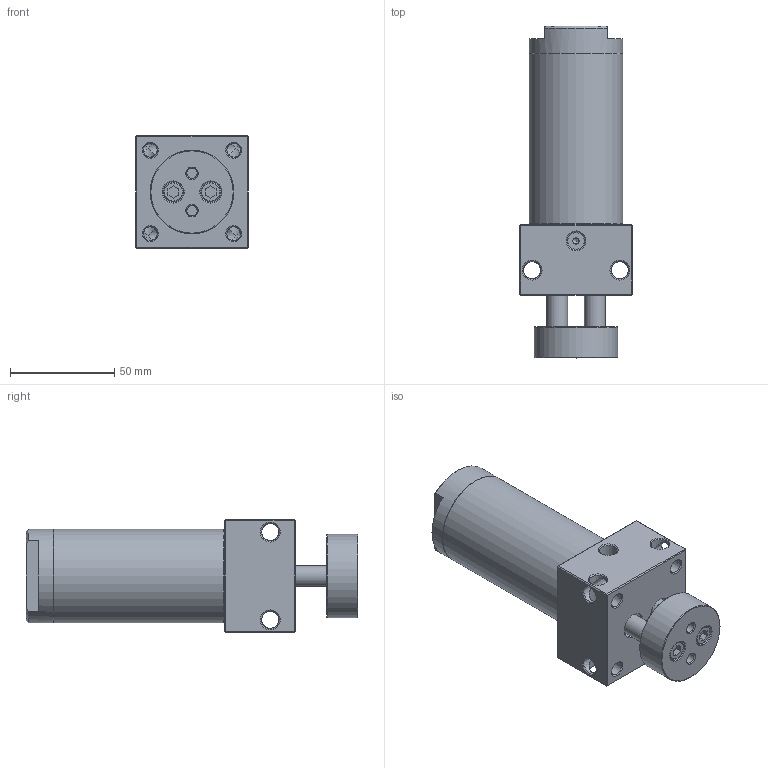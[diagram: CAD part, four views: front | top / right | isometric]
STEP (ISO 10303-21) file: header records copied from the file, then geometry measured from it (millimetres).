
FILE_DESCRIPTION((''),'2;1');
FILE_NAME('I:\3D電子目錄\氣缸\DBT\DBT\DBT40\DBT40x50.stp','2007-10-08T09:00:59',('Administrator'),(''),'Autodesk Inventor 2008','Autodesk Inventor 2008','');
FILE_SCHEMA(('AUTOMOTIVE_DESIGN { 1 0 10303 214 1 1 1 1 }'));
Length unit declared in the file: millimetre
Products named in the file (1): DBT40x50
Bounding box: 54 x 159 x 54 mm (x, y, z)
Volume: 171492.2 mm3; surface area: 61178.1 mm2
Topology: 5 solids, 5 shells, 164 faces, 360 edges, 215 vertices
Faces by surface type: plane 57, bspline 47, cone 37, cylinder 23
Full cylindrical faces by diameter (mm): 3 x1, 4.3 x1, 6 x1, 9.5 x1, 10 x4, 12 x1, 13 x1, 22 x1, 38.8 x2, 40 x2, 40.8 x2, 42 x2, 42.2 x2, 45 x2
Entity records: 4662 total; most frequent: CARTESIAN_POINT 1568, DIRECTION 604, ORIENTED_EDGE 500, EDGE_LOOP 300, AXIS2_PLACEMENT_3D 256, EDGE_CURVE 250, VERTEX_POINT 196, FACE_OUTER_BOUND 164
